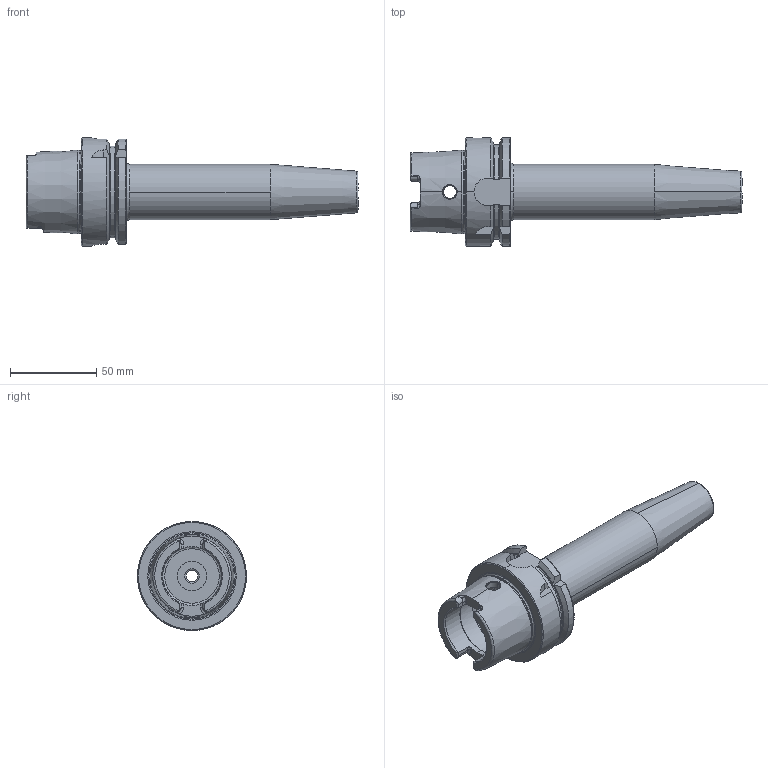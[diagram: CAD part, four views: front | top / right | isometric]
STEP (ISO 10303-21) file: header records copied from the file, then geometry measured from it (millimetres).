
FILE_DESCRIPTION (( 'STEP AP214' ), '1' );
FILE_NAME ('04-0485.STEP', '2021-08-03T19:01:36', ( '' ), ( '' ), 'SwSTEP 2.0', 'SolidWorks 2020', '' );
FILE_SCHEMA (( 'AUTOMOTIVE_DESIGN' ));
Length unit declared in the file: inch
Products named in the file (1): 04-0485
Bounding box: 192 x 63 x 63 mm (x, y, z)
Volume: 172066.7 mm3; surface area: 38294.5 mm2
Topology: 1 solids, 1 shells, 153 faces, 409 edges, 260 vertices
Faces by surface type: cylinder 49, bspline 41, plane 41, cone 22
Entity records: 8339 total; most frequent: CARTESIAN_POINT 4772, ORIENTED_EDGE 818, DIRECTION 656, EDGE_CURVE 409, AXIS2_PLACEMENT_3D 264, VERTEX_POINT 260, EDGE_LOOP 161, ADVANCED_FACE 153
